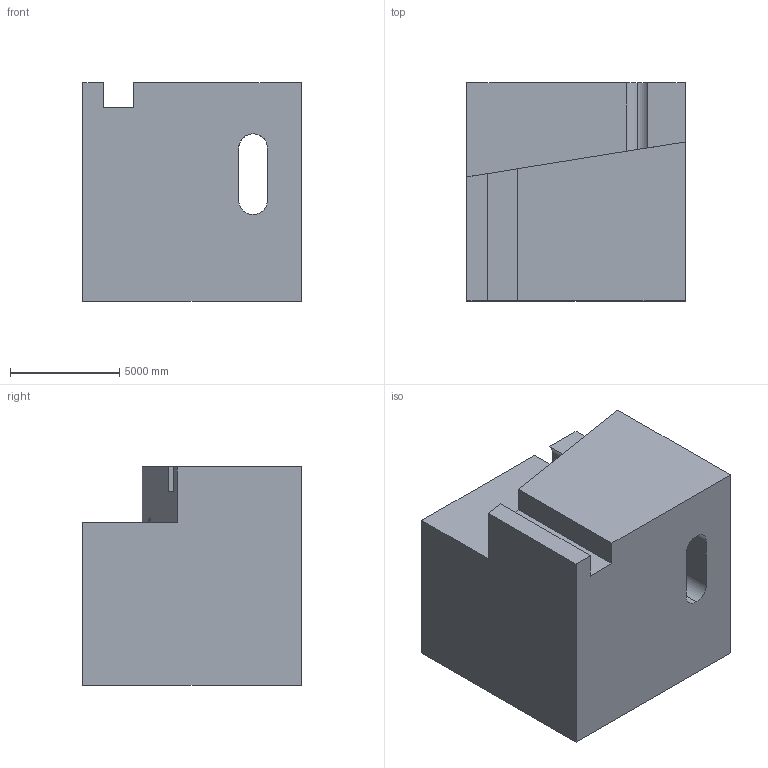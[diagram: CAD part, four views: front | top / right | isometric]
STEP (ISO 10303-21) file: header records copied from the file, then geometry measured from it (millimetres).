
FILE_DESCRIPTION (( 'STEP AP203' ), '1' );
FILE_NAME ('1251.STEP', '2022-08-18T13:23:49', ( 'user' ), ( '' ), 'SwSTEP 2.0', 'SolidWorks 2021', '' );
FILE_SCHEMA (( 'CONFIG_CONTROL_DESIGN' ));
Length unit declared in the file: centimetre
Products named in the file (1): 1251
Bounding box: 10000 x 10000 x 10000 mm (x, y, z)
Volume: 856120566003.2 mm3; surface area: 666328071.6 mm2
Topology: 1 solids, 1 shells, 18 faces, 51 edges, 34 vertices
Faces by surface type: plane 15, cylinder 3
Entity records: 663 total; most frequent: CARTESIAN_POINT 107, ORIENTED_EDGE 102, DIRECTION 95, EDGE_CURVE 51, LINE 43, VECTOR 43, VERTEX_POINT 34, AXIS2_PLACEMENT_3D 26
